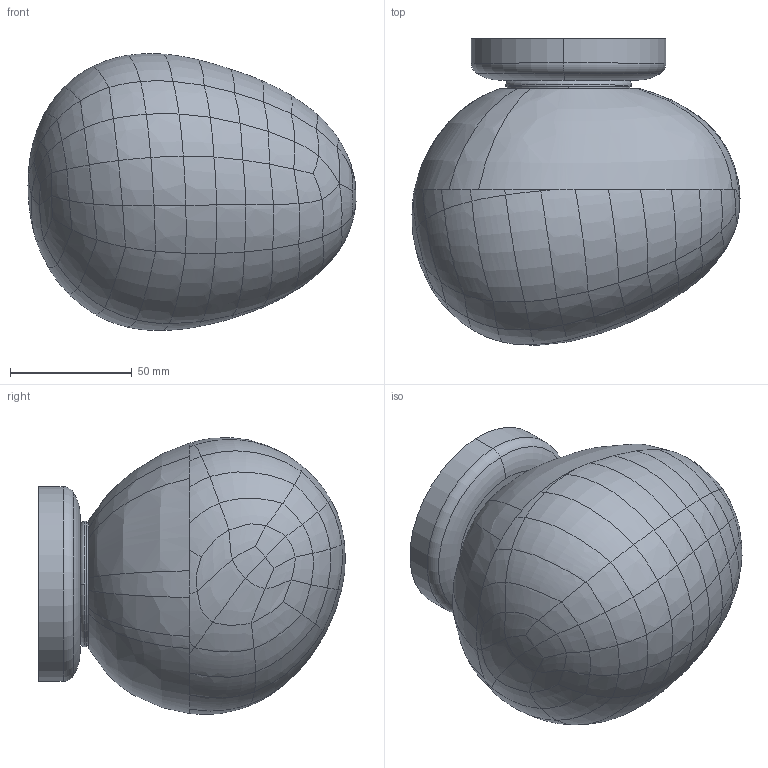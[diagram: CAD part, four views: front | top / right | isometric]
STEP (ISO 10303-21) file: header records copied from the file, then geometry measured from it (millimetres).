
FILE_DESCRIPTION (( 'STEP AP203' ), '1' );
FILE_NAME ('168_PICCOLA_W-C_PL_3D.STEP', '2021-04-07T12:46:08', ( '' ), ( '' ), 'SwSTEP 2.0', 'SolidWorks 2021', '' );
FILE_SCHEMA (( 'CONFIG_CONTROL_DESIGN' ));
Length unit declared in the file: millimetre
Products named in the file (1): 168_PICCOLA_W-C_PL_3D
Bounding box: 134.63 x 125.86 x 113.61 mm (x, y, z)
Volume: 68961 mm3; surface area: 117770.9 mm2
Topology: 5 solids, 5 shells, 469 faces, 1107 edges, 653 vertices
Faces by surface type: bspline 233, cylinder 102, torus 91, cone 23, plane 20
Entity records: 198068 total; most frequent: CARTESIAN_POINT 188762, ORIENTED_EDGE 2196, DIRECTION 1422, EDGE_CURVE 1098, VERTEX_POINT 653, AXIS2_PLACEMENT_3D 649, B_SPLINE_CURVE_WITH_KNOTS 554, EDGE_LOOP 525
